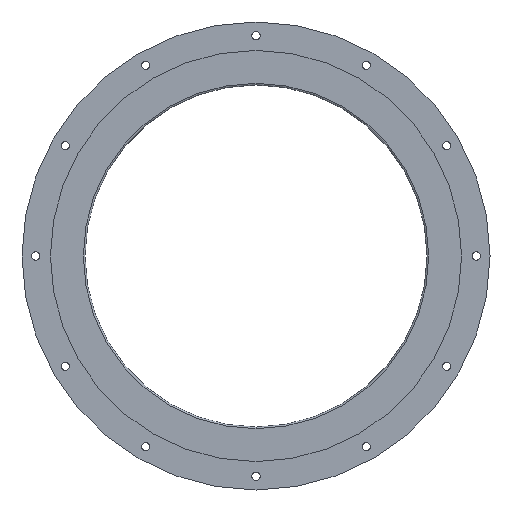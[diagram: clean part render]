
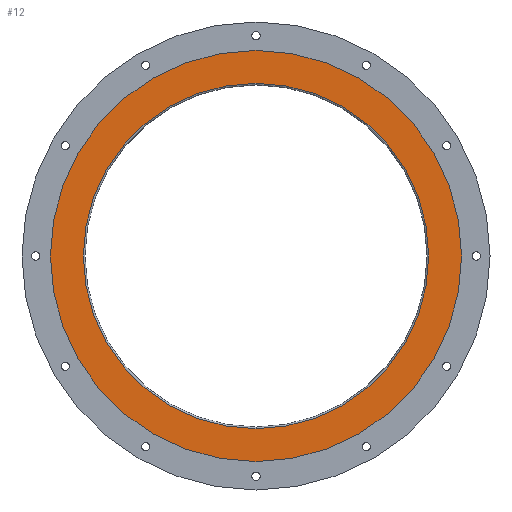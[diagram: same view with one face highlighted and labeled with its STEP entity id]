
A CAD part, front view. The second image highlights one B-rep face of the part: STEP entity #12.
In plain terms, the highlighted planar face has unit normal (0, -1, 0).
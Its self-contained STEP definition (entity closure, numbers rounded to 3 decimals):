
#12 = ADVANCED_FACE ( 'NONE', ( #1513, #98 ), #365, .F. ) ;
#41 = DIRECTION ( 'NONE',  ( 0., 0., -1. ) ) ;
#97 = CARTESIAN_POINT ( 'NONE',  ( 0., 0., 52.5 ) ) ;
#98 = FACE_OUTER_BOUND ( 'NONE', #1515, .T. ) ;
#121 = DIRECTION ( 'NONE',  ( 0., 0., 1. ) ) ;
#132 = VERTEX_POINT ( 'NONE', #1606 ) ;
#142 = AXIS2_PLACEMENT_3D ( 'NONE', #1514, #1377, #41 ) ;
#160 = EDGE_LOOP ( 'NONE', ( #1309, #933 ) ) ;
#187 = DIRECTION ( 'NONE',  ( 0., 0., -1. ) ) ;
#227 = AXIS2_PLACEMENT_3D ( 'NONE', #688, #1456, #794 ) ;
#242 = DIRECTION ( 'NONE',  ( 0., 0., 1. ) ) ;
#259 = CIRCLE ( 'NONE', #1041, 52.5 ) ;
#269 = CARTESIAN_POINT ( 'NONE',  ( 0., 0., 62.5 ) ) ;
#363 = VERTEX_POINT ( 'NONE', #1657 ) ;
#365 = PLANE ( 'NONE',  #1411 ) ;
#369 = DIRECTION ( 'NONE',  ( 0., 1., 0. ) ) ;
#468 = VERTEX_POINT ( 'NONE', #97 ) ;
#555 = ORIENTED_EDGE ( 'NONE', *, *, #1243, .T. ) ;
#688 = CARTESIAN_POINT ( 'NONE',  ( 0., 0., 0. ) ) ;
#794 = DIRECTION ( 'NONE',  ( 0., 0., 1. ) ) ;
#814 = CIRCLE ( 'NONE', #142, 62.5 ) ;
#933 = ORIENTED_EDGE ( 'NONE', *, *, #1192, .T. ) ;
#975 = DIRECTION ( 'NONE',  ( 0., -1., 0. ) ) ;
#983 = CIRCLE ( 'NONE', #227, 52.5 ) ;
#1033 = CARTESIAN_POINT ( 'NONE',  ( 0., 0., 0. ) ) ;
#1035 = CARTESIAN_POINT ( 'NONE',  ( 0., 0., 0. ) ) ;
#1041 = AXIS2_PLACEMENT_3D ( 'NONE', #1035, #369, #242 ) ;
#1058 = DIRECTION ( 'NONE',  ( 0., 1., 0. ) ) ;
#1070 = VERTEX_POINT ( 'NONE', #269 ) ;
#1122 = CIRCLE ( 'NONE', #1539, 62.5 ) ;
#1192 = EDGE_CURVE ( 'NONE', #363, #468, #983, .T. ) ;
#1238 = CARTESIAN_POINT ( 'NONE',  ( 0., 0., 0. ) ) ;
#1243 = EDGE_CURVE ( 'NONE', #132, #1070, #814, .T. ) ;
#1309 = ORIENTED_EDGE ( 'NONE', *, *, #1457, .T. ) ;
#1362 = EDGE_CURVE ( 'NONE', #1070, #132, #1122, .T. ) ;
#1377 = DIRECTION ( 'NONE',  ( 0., -1., 0. ) ) ;
#1411 = AXIS2_PLACEMENT_3D ( 'NONE', #1033, #1058, #121 ) ;
#1456 = DIRECTION ( 'NONE',  ( 0., 1., 0. ) ) ;
#1457 = EDGE_CURVE ( 'NONE', #468, #363, #259, .T. ) ;
#1513 = FACE_BOUND ( 'NONE', #160, .T. ) ;
#1514 = CARTESIAN_POINT ( 'NONE',  ( 0., 0., 0. ) ) ;
#1515 = EDGE_LOOP ( 'NONE', ( #555, #1593 ) ) ;
#1539 = AXIS2_PLACEMENT_3D ( 'NONE', #1238, #975, #187 ) ;
#1593 = ORIENTED_EDGE ( 'NONE', *, *, #1362, .T. ) ;
#1606 = CARTESIAN_POINT ( 'NONE',  ( 0., 0., -62.5 ) ) ;
#1657 = CARTESIAN_POINT ( 'NONE',  ( 0., 0., -52.5 ) ) ;
